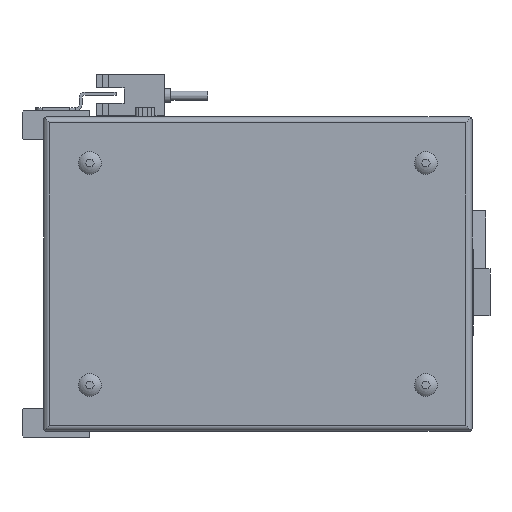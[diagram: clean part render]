
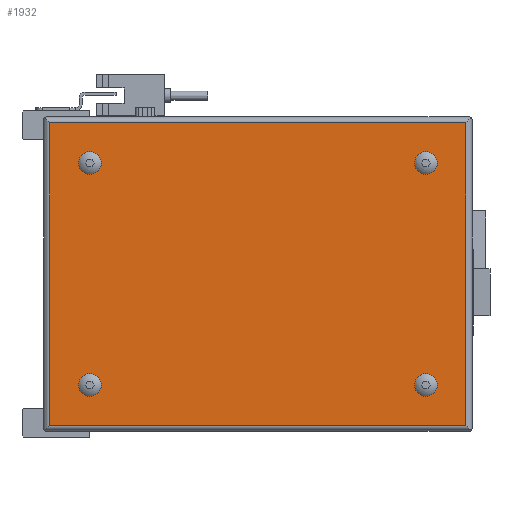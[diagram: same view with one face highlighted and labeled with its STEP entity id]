
A CAD part, left-side view. The second image highlights one B-rep face of the part: STEP entity #1932.
In plain terms, the highlighted planar face has unit normal (-1, 0, 0).
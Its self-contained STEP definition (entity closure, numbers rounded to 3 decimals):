
#1932 = ADVANCED_FACE( '', ( #4140, #4141, #4142, #4143, #4144 ), #4145, .F. );
#4140 = FACE_BOUND( '', #6649, .T. );
#4141 = FACE_BOUND( '', #6650, .T. );
#4142 = FACE_BOUND( '', #6651, .T. );
#4143 = FACE_BOUND( '', #6652, .T. );
#4144 = FACE_OUTER_BOUND( '', #6653, .T. );
#4145 = PLANE( '', #6654 );
#6649 = EDGE_LOOP( '', ( #12021 ) );
#6650 = EDGE_LOOP( '', ( #12022 ) );
#6651 = EDGE_LOOP( '', ( #12023 ) );
#6652 = EDGE_LOOP( '', ( #12024 ) );
#6653 = EDGE_LOOP( '', ( #12025, #12026, #12027, #12028 ) );
#6654 = AXIS2_PLACEMENT_3D( '', #12029, #12030, #12031 );
#12021 = ORIENTED_EDGE( '', *, *, #16266, .F. );
#12022 = ORIENTED_EDGE( '', *, *, #15836, .F. );
#12023 = ORIENTED_EDGE( '', *, *, #14295, .F. );
#12024 = ORIENTED_EDGE( '', *, *, #16129, .F. );
#12025 = ORIENTED_EDGE( '', *, *, #16209, .T. );
#12026 = ORIENTED_EDGE( '', *, *, #16460, .F. );
#12027 = ORIENTED_EDGE( '', *, *, #16461, .F. );
#12028 = ORIENTED_EDGE( '', *, *, #16277, .T. );
#12029 = CARTESIAN_POINT( '', ( -52., -75., 50. ) );
#12030 = DIRECTION( '', ( 1., 0., 0. ) );
#12031 = DIRECTION( '', ( 0., 0., -1. ) );
#14295 = EDGE_CURVE( '', #16929, #16929, #16930, .F. );
#15836 = EDGE_CURVE( '', #19486, #19486, #19487, .F. );
#16129 = EDGE_CURVE( '', #19909, #19909, #19910, .F. );
#16209 = EDGE_CURVE( '', #20014, #20012, #20015, .F. );
#16266 = EDGE_CURVE( '', #20093, #20093, #20094, .F. );
#16277 = EDGE_CURVE( '', #20109, #20014, #20110, .T. );
#16460 = EDGE_CURVE( '', #20334, #20012, #20335, .T. );
#16461 = EDGE_CURVE( '', #20109, #20334, #20336, .F. );
#16929 = VERTEX_POINT( '', #20871 );
#16930 = CIRCLE( '', #20872, 3.7 );
#19486 = VERTEX_POINT( '', #24798 );
#19487 = CIRCLE( '', #24799, 3.7 );
#19909 = VERTEX_POINT( '', #25415 );
#19910 = CIRCLE( '', #25416, 3.7 );
#20012 = VERTEX_POINT( '', #25575 );
#20014 = VERTEX_POINT( '', #25577 );
#20015 = LINE( '', #25578, #25579 );
#20093 = VERTEX_POINT( '', #25685 );
#20094 = CIRCLE( '', #25686, 3.7 );
#20109 = VERTEX_POINT( '', #25706 );
#20110 = LINE( '', #25707, #25708 );
#20334 = VERTEX_POINT( '', #26033 );
#20335 = LINE( '', #26034, #26035 );
#20336 = LINE( '', #26036, #26037 );
#20871 = CARTESIAN_POINT( '', ( -52., 48., 32.3 ) );
#20872 = AXIS2_PLACEMENT_3D( '', #26804, #26805, #26806 );
#24798 = CARTESIAN_POINT( '', ( -52., -61., -39.7 ) );
#24799 = AXIS2_PLACEMENT_3D( '', #28617, #28618, #28619 );
#25415 = CARTESIAN_POINT( '', ( -52., 48., -39.7 ) );
#25416 = AXIS2_PLACEMENT_3D( '', #28940, #28941, #28942 );
#25575 = CARTESIAN_POINT( '', ( -52., 61., 49. ) );
#25577 = CARTESIAN_POINT( '', ( -52., -74., 49. ) );
#25578 = CARTESIAN_POINT( '', ( -52., 139., 49. ) );
#25579 = VECTOR( '', #29026, 1000. );
#25685 = CARTESIAN_POINT( '', ( -52., -61., 32.3 ) );
#25686 = AXIS2_PLACEMENT_3D( '', #29086, #29087, #29088 );
#25706 = CARTESIAN_POINT( '', ( -52., -74., -49. ) );
#25707 = CARTESIAN_POINT( '', ( -52., -74., -102. ) );
#25708 = VECTOR( '', #29101, 1000. );
#26033 = CARTESIAN_POINT( '', ( -52., 61., -49. ) );
#26034 = CARTESIAN_POINT( '', ( -52., 61., -102. ) );
#26035 = VECTOR( '', #29295, 1000. );
#26036 = CARTESIAN_POINT( '', ( -52., 139., -49. ) );
#26037 = VECTOR( '', #29296, 1000. );
#26804 = CARTESIAN_POINT( '', ( -52., 48., 36. ) );
#26805 = DIRECTION( '', ( 1., 0., 0. ) );
#26806 = DIRECTION( '', ( 0., 0., -1. ) );
#28617 = CARTESIAN_POINT( '', ( -52., -61., -36. ) );
#28618 = DIRECTION( '', ( 1., 0., 0. ) );
#28619 = DIRECTION( '', ( 0., 0., -1. ) );
#28940 = CARTESIAN_POINT( '', ( -52., 48., -36. ) );
#28941 = DIRECTION( '', ( 1., 0., 0. ) );
#28942 = DIRECTION( '', ( 0., 0., -1. ) );
#29026 = DIRECTION( '', ( 0., -1., 0. ) );
#29086 = CARTESIAN_POINT( '', ( -52., -61., 36. ) );
#29087 = DIRECTION( '', ( 1., 0., 0. ) );
#29088 = DIRECTION( '', ( 0., 0., -1. ) );
#29101 = DIRECTION( '', ( 0., 0., 1. ) );
#29295 = DIRECTION( '', ( 0., 0., 1. ) );
#29296 = DIRECTION( '', ( 0., -1., 0. ) );
